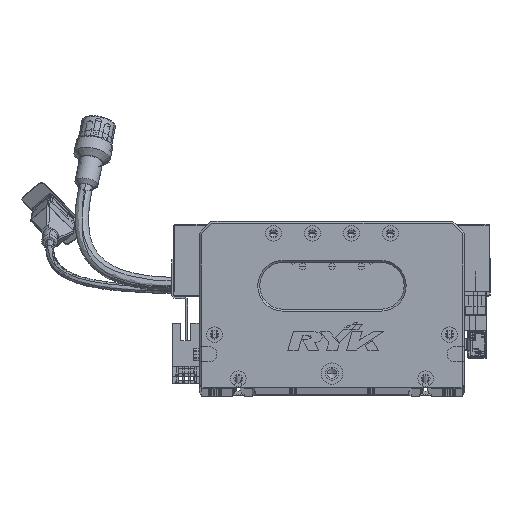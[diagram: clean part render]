
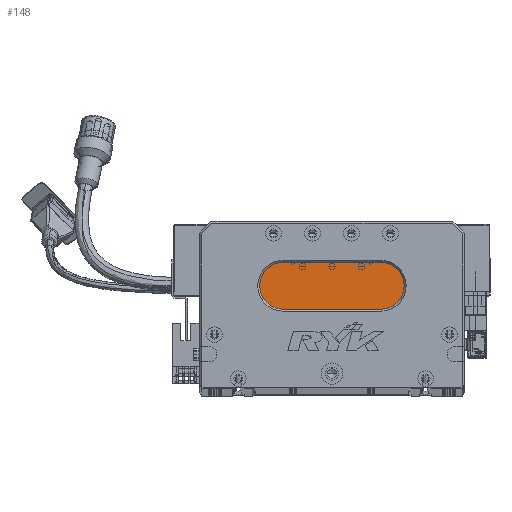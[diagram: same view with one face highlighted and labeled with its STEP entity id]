
A CAD part, top view. The second image highlights one B-rep face of the part: STEP entity #148.
In plain terms, the highlighted planar face has unit normal (0, 0, 1) as drawn and (0, 0, -1) by its records, which use the part's own axes.
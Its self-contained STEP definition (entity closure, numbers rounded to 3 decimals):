
#7 = CIRCLE ( 'NONE', #13229, 12. ) ;
#148 = ADVANCED_FACE ( 'NONE', ( #5222 ), #22105, .T. ) ;
#2865 = CARTESIAN_POINT ( 'NONE',  ( 43., 40., 13. ) ) ;
#3406 = CARTESIAN_POINT ( 'NONE',  ( 93., 52., 13. ) ) ;
#4081 = AXIS2_PLACEMENT_3D ( 'NONE', #15282, #71984, #17268 ) ;
#4240 = ORIENTED_EDGE ( 'NONE', *, *, #69507, .T. ) ;
#4976 = VERTEX_POINT ( 'NONE', #2865 ) ;
#5222 = FACE_OUTER_BOUND ( 'NONE', #83893, .T. ) ;
#7262 = DIRECTION ( 'NONE',  ( -1., 0., 0. ) ) ;
#13229 = AXIS2_PLACEMENT_3D ( 'NONE', #109360, #17015, #7262 ) ;
#15282 = CARTESIAN_POINT ( 'NONE',  ( 43., 52., 13. ) ) ;
#15417 = CIRCLE ( 'NONE', #93974, 12. ) ;
#15571 = AXIS2_PLACEMENT_3D ( 'NONE', #3406, #66661, #31072 ) ;
#17015 = DIRECTION ( 'NONE',  ( 0., 0., -1. ) ) ;
#17268 = DIRECTION ( 'NONE',  ( -1., 0., 0. ) ) ;
#20630 = EDGE_CURVE ( 'NONE', #45606, #38369, #73985, .T. ) ;
#20829 = CARTESIAN_POINT ( 'NONE',  ( 93., 64., 13. ) ) ;
#22105 = PLANE ( 'NONE',  #15571 ) ;
#26622 = ORIENTED_EDGE ( 'NONE', *, *, #62379, .T. ) ;
#28761 = DIRECTION ( 'NONE',  ( 0., 0., -1. ) ) ;
#29528 = EDGE_CURVE ( 'NONE', #71675, #4976, #89604, .T. ) ;
#31072 = DIRECTION ( 'NONE',  ( -1., 0., 0. ) ) ;
#38369 = VERTEX_POINT ( 'NONE', #119107 ) ;
#45606 = VERTEX_POINT ( 'NONE', #104636 ) ;
#46910 = CIRCLE ( 'NONE', #4081, 12. ) ;
#50438 = ORIENTED_EDGE ( 'NONE', *, *, #80692, .T. ) ;
#56508 = DIRECTION ( 'NONE',  ( 1., 0., 0. ) ) ;
#56673 = CARTESIAN_POINT ( 'NONE',  ( 93., 52., 13. ) ) ;
#60980 = VECTOR ( 'NONE', #56508, 1000. ) ;
#62379 = EDGE_CURVE ( 'NONE', #4976, #74768, #46910, .T. ) ;
#62898 = CARTESIAN_POINT ( 'NONE',  ( 93., 40., 13. ) ) ;
#66661 = DIRECTION ( 'NONE',  ( 0., 0., -1. ) ) ;
#69507 = EDGE_CURVE ( 'NONE', #74768, #45606, #7, .T. ) ;
#71675 = VERTEX_POINT ( 'NONE', #116646 ) ;
#71984 = DIRECTION ( 'NONE',  ( 0., 0., -1. ) ) ;
#73985 = LINE ( 'NONE', #20829, #60980 ) ;
#74768 = VERTEX_POINT ( 'NONE', #111611 ) ;
#74789 = ORIENTED_EDGE ( 'NONE', *, *, #29528, .T. ) ;
#80692 = EDGE_CURVE ( 'NONE', #38369, #71675, #15417, .T. ) ;
#83893 = EDGE_LOOP ( 'NONE', ( #50438, #74789, #26622, #4240, #86456 ) ) ;
#86456 = ORIENTED_EDGE ( 'NONE', *, *, #20630, .T. ) ;
#89604 = LINE ( 'NONE', #62898, #114255 ) ;
#93974 = AXIS2_PLACEMENT_3D ( 'NONE', #56673, #28761, #103637 ) ;
#103637 = DIRECTION ( 'NONE',  ( -1., 0., 0. ) ) ;
#104636 = CARTESIAN_POINT ( 'NONE',  ( 43., 64., 13. ) ) ;
#109360 = CARTESIAN_POINT ( 'NONE',  ( 43., 52., 13. ) ) ;
#111611 = CARTESIAN_POINT ( 'NONE',  ( 31., 52., 13. ) ) ;
#114255 = VECTOR ( 'NONE', #119618, 1000. ) ;
#116646 = CARTESIAN_POINT ( 'NONE',  ( 93., 40., 13. ) ) ;
#119107 = CARTESIAN_POINT ( 'NONE',  ( 93., 64., 13. ) ) ;
#119618 = DIRECTION ( 'NONE',  ( -1., 0., 0. ) ) ;
